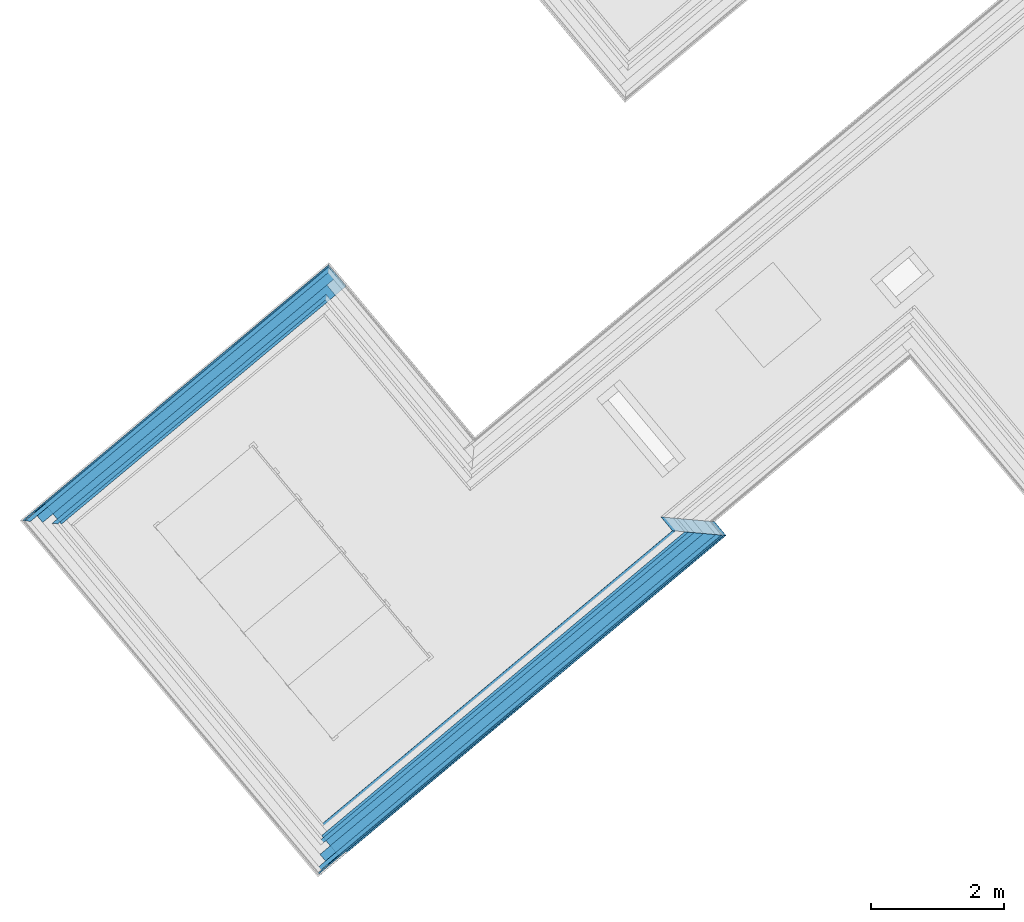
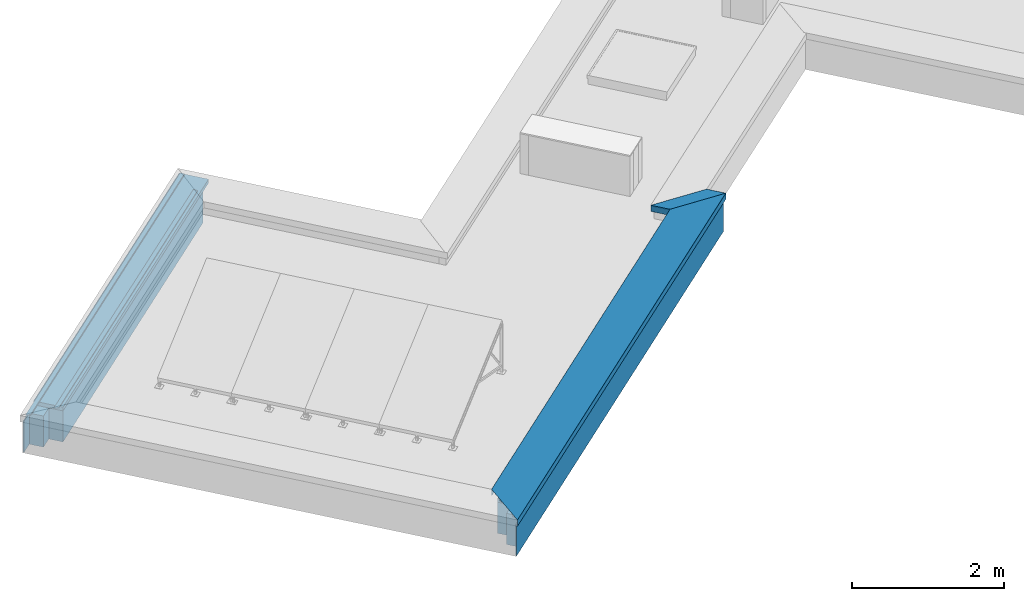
# One storey, part 2 of 13: 16 building element parts, 3 elements without a shape of their own.
"""IFC4 building model written with IfcOpenShell, lengths in metres."""

from ifc_helpers import new_model, entity, si_unit, converted_unit, derived_unit, direction, frame, origin_with_axes, place, context, subcontext, project, spatial, polygons, material, type_object, element, aggregate, save


model = new_model("IFC4")

# Units and contexts
model_context = context("Model", 3, precision=1e-05, world=origin_with_axes(), true_north=direction((0.0, 1.0)))
body_context = subcontext(model_context, "Body", "Model", "MODEL_VIEW")
ifc_project = project(units=[si_unit("LENGTHUNIT", "METRE"), si_unit("AREAUNIT", "SQUARE_METRE"), si_unit("VOLUMEUNIT", "CUBIC_METRE"), converted_unit("PLANEANGLEUNIT", "DEGREE", entity("IfcPlaneAngleMeasure", 0.0174532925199), si_unit("PLANEANGLEUNIT", "RADIAN"), dimensions=[0, 0, 0, 0, 0, 0, 0]), converted_unit("TIMEUNIT", "Year", entity("IfcTimeMeasure", 31556926.0), si_unit("TIMEUNIT", "SECOND"), dimensions=[0, 0, 1, 0, 0, 0, 0]), si_unit("MASSUNIT", "GRAM", prefix="KILO"), si_unit("THERMODYNAMICTEMPERATUREUNIT", "DEGREE_CELSIUS"), si_unit("LUMINOUSINTENSITYUNIT", "LUMEN"), si_unit("ENERGYUNIT", "JOULE", prefix="MEGA"), derived_unit("THERMALCONDUCTANCEUNIT", [(si_unit("POWERUNIT", "WATT"), 1), (si_unit("LENGTHUNIT", "METRE"), -1), (si_unit("THERMODYNAMICTEMPERATUREUNIT", "KELVIN"), -1)]), derived_unit("SPECIFICHEATCAPACITYUNIT", [(si_unit("ENERGYUNIT", "JOULE"), 1), (si_unit("MASSUNIT", "GRAM", prefix="KILO"), -1), (si_unit("THERMODYNAMICTEMPERATUREUNIT", "KELVIN"), -1)]), derived_unit("MASSDENSITYUNIT", [(si_unit("MASSUNIT", "GRAM", prefix="KILO"), 1), (si_unit("VOLUMEUNIT", "CUBIC_METRE"), -1)])], contexts=[model_context])

# Site, building, storey
site_placement = place(None, frame((-0.00153261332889, -0.00661245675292, 0.0), z_axis=(0.0, 0.0, 1.0), x_axis=(1.0, 0.0, 0.0)))
site = spatial("IfcSite", under=ifc_project, at=site_placement, Name="Gelände", CompositionType="ELEMENT")
building_placement = place(site_placement, origin_with_axes())
building = spatial("IfcBuilding", under=site, at=building_placement, Name="Gebäude", CompositionType="ELEMENT")
storey_placement = place(building_placement, frame((0.0, 0.0, 11.84), z_axis=(0.0, 0.0, 1.0), x_axis=(1.0, 0.0, 0.0)))
storey = spatial("IfcBuildingStorey", under=building, at=storey_placement, Name="DA", CompositionType="ELEMENT", Elevation=11.84)

# Wall, building element parts
wall_type = type_object("IfcWallType", Name="Individuelles Profil 574 x 610", PredefinedType="NOTDEFINED")
wall_1_placement = place(storey_placement, frame((-7.43474309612, 17.8596956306, 0.0), z_axis=(0.0, 0.0, 1.0), x_axis=(0.767365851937, 0.641209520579, 0.0)))
wall_1 = element("IfcWall", 1, at=wall_1_placement, inside=storey, type_object=wall_type, Name="Wand-004", PredefinedType="NOTDEFINED")
ifc_material_1 = material(Name="Zementputz")
building_element_part_1_placement = place(wall_1_placement, origin_with_axes())
building_element_part_1 = element("IfcBuildingElementPart", 2, at=building_element_part_1_placement, material=ifc_material_1, Name="Zementputz", PredefinedType="NOTDEFINED", context=body_context, shape_type="Tessellation", body=[
    polygons([(-0.199999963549, 0.214999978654, 0.5), (-0.199999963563, 0.199999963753, 0.5), (5.77520571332, 0.199999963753, 0.50000001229), (5.77520571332, 0.214999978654, 0.50000001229), (-0.199999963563, 0.199999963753, 0.498822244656), (-0.199999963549, 0.214999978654, 0.498822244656), (-0.199999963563, 0.199999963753, 0.491006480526), (-0.199999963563, 0.199999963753, 0.488695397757), (-0.199999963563, 0.199999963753, 0.235000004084), (-0.199999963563, 0.199999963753, 0.0), (5.77520571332, 0.199999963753, 0.0), (5.77520571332, 0.214999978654, 0.0), (-0.199999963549, 0.214999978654, 0.0), (-0.199999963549, 0.214999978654, 0.235000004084), (-0.199999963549, 0.214999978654, 0.488695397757), (-0.199999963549, 0.214999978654, 0.491006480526)], [[[1, 2, 3, 4]], [[5, 2, 1, 6]], [[2, 5, 7, 8, 9, 10, 11, 3]], [[4, 3, 11, 12]], [[6, 1, 4, 12, 13, 14, 15, 16]], [[5, 6, 16, 7]], [[7, 16, 15, 8]], [[8, 15, 14, 9]], [[9, 14, 13, 10]], [[10, 13, 12, 11]]], closed=True),
])
ifc_material_2 = material(Name="Vollholz")
building_element_part_2_placement = place(wall_1_placement, origin_with_axes())
building_element_part_2 = element("IfcBuildingElementPart", 3, at=building_element_part_2_placement, material=ifc_material_2, Name="Vollholz", PredefinedType="NOTDEFINED", context=body_context, shape_type="Tessellation", body=[
    polygons([(-0.13012497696, 0.189996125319, 0.584015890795), (-0.130124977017, 0.130124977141, 0.584015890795), (-0.18998490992, 0.189984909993, 0.586106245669), (-0.13012497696, 0.190039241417, 0.575979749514), (-0.130124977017, 0.130124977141, 0.575979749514), (5.75020187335, 0.130124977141, 0.584015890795), (5.75019090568, 0.189984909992, 0.586106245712), (-0.13012497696, 0.190050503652, 0.573880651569), (5.75020187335, 0.189996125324, 0.584015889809), (5.75024498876, 0.190039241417, 0.575979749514), (5.75025625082, 0.190050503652, 0.573880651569), (5.75028808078, 0.190082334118, 0.567947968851), (5.75033072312, 0.190124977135, 0.560000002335), (-0.13012497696, 0.190124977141, 0.560000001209), (-0.13012497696, 0.190082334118, 0.567947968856), (-0.130124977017, 0.130124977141, 0.573880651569), (-0.130124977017, 0.130124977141, 0.567947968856), (-0.130124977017, 0.130124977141, 0.560000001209), (5.75033072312, 0.130124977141, 0.560000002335), (5.75028808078, 0.130124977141, 0.567947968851), (5.75025625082, 0.130124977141, 0.573880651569), (5.75024498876, 0.130124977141, 0.575979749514)], [[[1, 2, 3]], [[2, 1, 4, 5]], [[3, 2, 6, 7]], [[8, 4, 1, 3, 7, 9, 10, 11, 12, 13, 14, 15]], [[16, 5, 4, 8]], [[17, 18, 19, 20, 21, 22, 6, 2, 5, 16]], [[7, 6, 9]], [[10, 9, 6, 22]], [[11, 10, 22, 21]], [[12, 11, 21, 20]], [[13, 12, 20, 19]], [[18, 14, 13, 19]], [[18, 17, 15, 14]], [[17, 16, 8, 15]]], closed=True),
])
ifc_material_3 = material(Name="EPS 1")
building_element_part_3_placement = place(wall_1_placement, origin_with_axes())
building_element_part_3 = element("IfcBuildingElementPart", 4, at=building_element_part_3_placement, material=ifc_material_3, Name="EPS 1", PredefinedType="NOTDEFINED", context=body_context, shape_type="Tessellation", body=[
    polygons([(5.76020570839, -2.16659046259e-09, 0.498822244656), (5.76020570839, -2.16658690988e-09, 0.5), (2.16658957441e-09, -2.16659046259e-09, 0.5), (2.16659046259e-09, -2.16659046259e-09, 0.498822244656), (2.16659046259e-09, -2.16659046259e-09, 0.491006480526), (2.16659046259e-09, -2.16659046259e-09, 0.488695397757), (2.16659046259e-09, -2.16659046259e-09, 0.235000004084), (2.16658957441e-09, -2.16659046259e-09, 0.0), (5.76020570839, -2.16659046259e-09, 0.0), (5.76020570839, -2.16659046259e-09, 0.235000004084), (5.76020570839, -2.16659046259e-09, 0.488695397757), (5.76020570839, -2.16659046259e-09, 0.491006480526), (5.76020570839, 0.19999996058, 0.5), (5.76020570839, 0.19999996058, 0.498822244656), (2.35620856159e-09, 0.19999996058, 0.5), (2.35620944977e-09, 0.19999996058, 0.498822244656), (2.35620944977e-09, 0.19999996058, 0.491006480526), (2.35620944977e-09, 0.19999996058, 0.488695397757), (2.35620944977e-09, 0.19999996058, 0.235000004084), (2.35620944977e-09, 0.19999996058, 0.0), (5.76020570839, 0.19999996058, 0.0), (5.76020570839, 0.19999996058, 0.235000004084), (5.76020570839, 0.19999996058, 0.488695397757), (5.76020570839, 0.19999996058, 0.491006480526)], [[[1, 2, 3, 4, 5, 6, 7, 8, 9, 10, 11, 12]], [[13, 2, 1, 14]], [[2, 13, 15, 3]], [[4, 3, 15, 16]], [[4, 16, 17, 5]], [[5, 17, 18, 6]], [[6, 18, 19, 7]], [[7, 19, 20, 8]], [[21, 9, 8, 20]], [[22, 10, 9, 21]], [[23, 11, 10, 22]], [[24, 12, 11, 23]], [[14, 1, 12, 24]], [[13, 14, 24, 23, 22, 21, 20, 19, 18, 17, 16, 15]]], closed=True),
])
ifc_material_4 = material(Name="Brettschichtholz")
building_element_part_4_placement = place(wall_1_placement, origin_with_axes())
building_element_part_4 = element("IfcBuildingElementPart", 5, at=building_element_part_4_placement, material=ifc_material_4, Name="Brettschichtholz", PredefinedType="NOTDEFINED", context=body_context, shape_type="Tessellation", body=[
    polygons([(5.77520571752, -0.200000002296, 0.519224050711), (5.77520572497, -0.200000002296, 0.559999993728), (0.200000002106, -0.200000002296, 0.560000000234), (0.200000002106, -0.200000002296, 0.519224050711), (0.200000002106, -0.200000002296, 0.51136132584), (0.200000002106, -0.200000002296, 0.509050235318), (0.200000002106, -0.200000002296, 0.499999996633), (5.77520571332, -0.200000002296, 0.50000001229), (5.77520571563, -0.200000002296, 0.509050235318), (5.77520571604, -0.200000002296, 0.51136132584), (5.77520572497, -0.159999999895, 0.559999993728), (5.77520571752, 0.214999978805, 0.519224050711), (5.77520572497, 0.214999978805, 0.559999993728), (5.77520572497, 0.190124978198, 0.559999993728), (5.77520572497, 0.130124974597, 0.559999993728), (5.77520572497, -0.0999999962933, 0.559999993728), (0.200000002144, -0.159999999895, 0.560000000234), (0.200000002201, -0.0999999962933, 0.560000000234), (0.200000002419, 0.130124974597, 0.560000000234), (0.200000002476, 0.190124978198, 0.560000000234), (0.200000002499, 0.214999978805, 0.560000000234), (0.200000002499, 0.214999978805, 0.519224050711), (0.200000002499, 0.214999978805, 0.51136132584), (0.200000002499, 0.214999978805, 0.509050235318), (0.200000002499, 0.214999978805, 0.499999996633), (5.77520571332, 0.214999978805, 0.50000001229), (5.77520571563, 0.214999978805, 0.509050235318), (5.77520571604, 0.214999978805, 0.51136132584)], [[[1, 2, 3, 4, 5, 6, 7, 8, 9, 10]], [[11, 2, 1, 12, 13, 14, 15, 16]], [[2, 11, 17, 3]], [[4, 3, 17, 18, 19, 20, 21, 22]], [[4, 22, 23, 5]], [[5, 23, 24, 6]], [[6, 24, 25, 7]], [[7, 25, 26, 8]], [[27, 9, 8, 26]], [[28, 10, 9, 27]], [[12, 1, 10, 28]], [[13, 12, 28, 27, 26, 25, 24, 23, 22, 21]], [[14, 13, 21, 20]], [[15, 14, 20, 19]], [[16, 15, 19, 18]], [[11, 16, 18, 17]]], closed=True),
])
ifc_material_5 = material(Name="Stahlbeton Wand Garage")
building_element_part_5_placement = place(wall_1_placement, origin_with_axes())
building_element_part_5 = element("IfcBuildingElementPart", 6, at=building_element_part_5_placement, material=ifc_material_5, Name="Stahlbeton Wand Garage", PredefinedType="NOTDEFINED", context=body_context, shape_type="Tessellation", body=[
    polygons([(5.56020574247, -0.200000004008, 0.498822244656), (5.56020574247, -0.2, 0.5), (0.19999999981, -0.2, 0.5), (0.199999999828, -0.200000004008, 0.498822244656), (0.199999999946, -0.200000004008, 0.491006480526), (0.199999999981, -0.200000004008, 0.488695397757), (0.200000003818, -0.200000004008, 0.235000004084), (5.56020574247, -0.200000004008, 0.235000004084), (5.56020574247, -0.200000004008, 0.488695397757), (5.56020574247, -0.200000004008, 0.491006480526), (5.56020574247, 0.0, 0.5), (5.56020574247, 0.0, 0.498822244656), (0.2, 0.0, 0.5), (0.200000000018, 0.0, 0.498822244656), (0.200000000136, 0.0, 0.491006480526), (0.200000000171, 0.0, 0.488695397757), (0.200000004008, 0.0, 0.235000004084), (5.56020574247, -0.2, 0.0), (0.19999999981, -0.2, 0.0), (5.56020574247, 0.0, 0.488695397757), (5.56020574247, 0.0, 0.235000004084), (5.56020574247, 0.0, 0.491006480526), (5.56020574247, 0.0, 0.0), (0.2, 0.0, 0.0)], [[[1, 2, 3, 4, 5, 6, 7, 8, 9, 10]], [[11, 2, 1, 12]], [[2, 11, 13, 3]], [[4, 3, 13, 14]], [[4, 14, 15, 5]], [[5, 15, 16, 6]], [[6, 16, 17, 7]], [[18, 8, 7, 19]], [[20, 9, 8, 21]], [[22, 10, 9, 20]], [[12, 1, 10, 22]], [[11, 12, 22, 20, 21, 23, 24, 17, 16, 15, 14, 13]], [[7, 17, 24, 19]], [[21, 8, 18, 23]], [[23, 18, 19, 24]]], closed=True),
])
building_element_part_6_placement = place(wall_1_placement, origin_with_axes())
building_element_part_6 = element("IfcBuildingElementPart", 7, at=building_element_part_6_placement, material=ifc_material_2, Name="Vollholz", PredefinedType="NOTDEFINED", context=body_context, shape_type="Tessellation", body=[
    polygons([(5.46020575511, -0.1, 0.573880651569), (5.46020575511, -0.160110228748, 0.573880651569), (5.46020575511, -0.160063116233, 0.567947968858), (5.46020575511, -0.1, 0.567947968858), (5.46020575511, -0.1, 0.575979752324), (0.160110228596, -0.160110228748, 0.573880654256), (0.160063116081, -0.160063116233, 0.567947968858), (0.159999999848, -0.16, 0.560000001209), (5.46020575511, -0.16, 0.560000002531), (5.46020575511, -0.1, 0.560000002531), (0.159999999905, -0.1, 0.560000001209), (0.160063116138, -0.1, 0.567947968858), (0.160110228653, -0.1, 0.573880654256), (0.0999999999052, -0.1, 0.575979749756)], [[[1, 2, 3, 4]], [[5, 2, 1]], [[3, 2, 6, 7, 8, 9]], [[4, 3, 9, 10]], [[5, 1, 4, 10, 11, 12, 13, 14]], [[2, 5, 14, 6]], [[6, 13, 12, 7]], [[7, 12, 11, 8]], [[10, 9, 8, 11]], [[13, 6, 14]]], closed=True),
])
aggregate(wall_1, [building_element_part_1, building_element_part_2, building_element_part_3, building_element_part_4, building_element_part_5, building_element_part_6])

wall_2_placement = place(storey_placement, frame((2.48571839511, 17.6952214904, 0.0), z_axis=(0.0, 0.0, 1.0), x_axis=(-0.766948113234, -0.641709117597, 0.0)))
wall_2 = element("IfcWall", 8, at=wall_2_placement, inside=storey, type_object=wall_type, Name="Wand-004", PredefinedType="NOTDEFINED")
building_element_part_7_placement = place(wall_2_placement, origin_with_axes())
building_element_part_7 = element("IfcBuildingElementPart", 9, at=building_element_part_7_placement, material=ifc_material_1, Name="Zementputz", PredefinedType="NOTDEFINED", context=body_context, shape_type="Tessellation", body=[
    polygons([(7.70729285, 0.199999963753, 0.5), (7.7073026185, 0.214999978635, 0.5), (-0.214695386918, 0.214999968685, 0.50000001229), (-0.199716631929, 0.199999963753, 0.50000001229), (7.7073026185, 0.214999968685, 0.498822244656), (7.70729285, 0.199999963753, 0.498822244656), (7.7073026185, 0.214999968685, 0.491006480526), (7.7073026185, 0.214999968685, 0.488695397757), (7.7073026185, 0.214999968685, 0.235000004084), (7.7073026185, 0.214999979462, 0.0), (-0.214695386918, 0.214999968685, 0.0), (-0.199716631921, 0.199999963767, 0.0), (7.70729285, 0.199999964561, 0.0), (7.70729285, 0.199999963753, 0.235000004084), (7.70729285, 0.199999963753, 0.488695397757), (7.70729285, 0.199999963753, 0.491006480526)], [[[1, 2, 3, 4]], [[5, 2, 1, 6]], [[2, 5, 7, 8, 9, 10, 11, 3]], [[12, 4, 3, 11]], [[6, 1, 4, 12, 13, 14, 15, 16]], [[5, 6, 16, 7]], [[7, 16, 15, 8]], [[8, 15, 14, 9]], [[9, 14, 13, 10]], [[10, 13, 12, 11]]], closed=True),
])
building_element_part_8_placement = place(wall_2_placement, origin_with_axes())
building_element_part_8 = element("IfcBuildingElementPart", 10, at=building_element_part_8_placement, material=ifc_material_2, Name="Vollholz", PredefinedType="NOTDEFINED", context=body_context, shape_type="Tessellation", body=[
    polygons([(7.63741133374, 0.189996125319, 0.584015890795), (7.69727127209, 0.189984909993, 0.586106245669), (7.63737234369, 0.130124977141, 0.584015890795), (7.63741136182, 0.190039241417, 0.575979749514), (7.63741136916, 0.190050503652, 0.573880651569), (7.63741138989, 0.190082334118, 0.567947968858), (7.63741141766, 0.190124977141, 0.560000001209), (-0.189855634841, 0.190124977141, 0.560000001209), (-0.18971576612, 0.189984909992, 0.586106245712), (-0.129940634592, 0.130124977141, 0.584015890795), (7.63737234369, 0.130124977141, 0.575979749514), (7.63737234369, 0.130124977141, 0.573880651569), (7.63737234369, 0.130124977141, 0.567947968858), (7.63737234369, 0.130124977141, 0.560000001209), (-0.129940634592, 0.130124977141, 0.560000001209)], [[[1, 2, 3]], [[2, 1, 4, 5, 6, 7, 8, 9]], [[3, 2, 9, 10]], [[11, 4, 1, 3]], [[12, 5, 4, 11]], [[5, 12, 13, 6]], [[13, 14, 7, 6]], [[7, 14, 15, 8]], [[15, 10, 9, 8]], [[14, 13, 12, 11, 3, 10, 15]]], closed=True),
])
building_element_part_9_placement = place(wall_2_placement, origin_with_axes())
building_element_part_9 = element("IfcBuildingElementPart", 11, at=building_element_part_9_placement, material=ifc_material_3, Name="EPS 1", PredefinedType="NOTDEFINED", context=body_context, shape_type="Tessellation", body=[
    polygons([(7.50716259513, -2.16659401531e-09, 0.5), (7.50729284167, 0.19999996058, 0.5), (-0.199716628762, 0.19999996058, 0.50000001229), (1.53557877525e-09, -2.16659223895e-09, 0.50000001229), (7.50729284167, 0.199999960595, 0.498822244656), (7.50716259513, -2.16659046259e-09, 0.498822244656), (7.50729284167, 0.199999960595, 0.491006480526), (7.50729284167, 0.199999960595, 0.488695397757), (7.50729284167, 0.199999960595, 0.235000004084), (7.50729284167, 0.199999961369, 0.0), (-0.199716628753, 0.199999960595, 0.0), (1.83745818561e-09, -2.1431141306e-09, 0.0), (7.50716259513, -1.62777169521e-09, 0.0), (7.50716259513, -2.16659046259e-09, 0.235000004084), (7.50716259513, -2.16659046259e-09, 0.488695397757), (7.50716259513, -2.16659046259e-09, 0.491006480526)], [[[1, 2, 3, 4]], [[5, 2, 1, 6]], [[2, 5, 7, 8, 9, 10, 11, 3]], [[12, 4, 3, 11]], [[6, 1, 4, 12, 13, 14, 15, 16]], [[5, 6, 16, 7]], [[7, 16, 15, 8]], [[8, 15, 14, 9]], [[9, 14, 13, 10]], [[10, 13, 12, 11]]], closed=True),
])
building_element_part_10_placement = place(wall_2_placement, origin_with_axes())
building_element_part_10 = element("IfcBuildingElementPart", 12, at=building_element_part_10_placement, material=ifc_material_4, Name="Brettschichtholz", PredefinedType="NOTDEFINED", context=body_context, shape_type="Tessellation", body=[
    polygons([(7.30703230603, -0.200000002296, 0.509050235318), (7.30730256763, 0.214999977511, 0.509050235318), (7.30730256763, 0.214999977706, 0.51136132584), (7.30703230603, -0.200000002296, 0.51136132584), (7.30703230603, -0.200000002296, 0.499999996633), (7.30730256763, 0.21499997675, 0.499999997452), (-0.214695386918, 0.214999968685, 0.50000001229), (-0.214695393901, 0.214999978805, 0.55999999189), (7.30730256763, 0.214999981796, 0.55999999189), (7.30730256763, 0.214999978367, 0.519224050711), (7.30703230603, -0.200000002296, 0.519224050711), (7.30703230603, -0.200000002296, 0.560000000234), (0.19971667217, -0.200000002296, 0.560000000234), (0.199716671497, -0.200000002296, 0.499999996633), (0.0998583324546, -0.0999999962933, 0.560000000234), (-0.129940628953, 0.130124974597, 0.560000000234), (-0.189855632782, 0.190124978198, 0.560000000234), (0.159773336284, -0.159999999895, 0.560000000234), (7.30728636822, 0.190124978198, 0.560000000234), (7.30724729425, 0.130124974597, 0.560000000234), (7.30709742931, -0.0999999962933, 0.560000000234), (7.30705835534, -0.159999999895, 0.560000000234)], [[[1, 2, 3, 4]], [[5, 6, 2, 1]], [[2, 6, 7, 8, 9, 10, 3]], [[4, 3, 10, 11]], [[5, 1, 4, 11, 12, 13, 14]], [[6, 5, 14, 7]], [[15, 16, 17, 8, 7, 14, 13, 18]], [[19, 9, 8, 17]], [[20, 21, 22, 12, 11, 10, 9, 19]], [[12, 22, 18, 13]], [[21, 20, 16, 15]], [[20, 19, 17, 16]], [[22, 21, 15, 18]]], closed=True),
])
building_element_part_11_placement = place(wall_2_placement, origin_with_axes())
building_element_part_11 = element("IfcBuildingElementPart", 13, at=building_element_part_11_placement, material=ifc_material_5, Name="Stahlbeton Wand Garage", PredefinedType="NOTDEFINED", context=body_context, shape_type="Tessellation", body=[
    polygons([(7.30703230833, -0.2, 0.5), (7.30716255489, 0.0, 0.5), (-6.27938590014e-10, 0.0, 0.50000001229), (0.19971666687, -0.2, 0.50000001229), (7.30716255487, 0.0, 0.498822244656), (7.30703230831, -0.2, 0.498822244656), (7.30716255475, 0.0, 0.491006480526), (7.30716255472, 0.0, 0.488695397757), (7.30716255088, 0.0, 0.235000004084), (7.30716255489, 5.2508930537e-10, 0.0), (-3.26064508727e-10, 0.0, 0.0), (0.199716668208, -0.200000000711, 0.23500000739), (0.199716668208, -0.200000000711, 0.0), (7.30703230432, -0.200000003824, 0.235000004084), (7.30703230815, -0.2, 0.488695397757), (7.30703230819, -0.2, 0.491006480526), (7.30703230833, -0.199999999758, 0.0)], [[[1, 2, 3, 4]], [[5, 2, 1, 6]], [[2, 5, 7, 8, 9, 10, 11, 3]], [[12, 4, 3, 11, 13]], [[6, 1, 4, 12, 14, 15, 16]], [[5, 6, 16, 7]], [[7, 16, 15, 8]], [[8, 15, 14, 9]], [[9, 14, 17, 10]], [[10, 17, 13, 11]], [[17, 14, 12, 13]]], closed=True),
])
building_element_part_12_placement = place(wall_2_placement, origin_with_axes())
building_element_part_12 = element("IfcBuildingElementPart", 14, at=building_element_part_12_placement, material=ifc_material_2, Name="Vollholz", PredefinedType="NOTDEFINED", context=body_context, shape_type="Tessellation", body=[
    polygons([(7.40709745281, -0.0999999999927, 0.575979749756), (7.34698721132, -0.1, 0.573880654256), (7.34703432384, -0.1, 0.567947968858), (7.34709744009, -0.1, 0.560000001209), (0.0998583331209, -0.1, 0.560000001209), (0.0998583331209, -0.1, 0.575979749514), (7.34694806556, -0.160110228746, 0.573880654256), (7.34699520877, -0.160063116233, 0.567947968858), (7.34705836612, -0.16, 0.560000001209), (0.15977333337, -0.16, 0.560000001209), (0.159883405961, -0.160110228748, 0.573880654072)], [[[1, 2, 3, 4, 5, 6]], [[7, 2, 1]], [[2, 7, 8, 3]], [[3, 8, 9, 4]], [[4, 9, 10, 5]], [[10, 11, 6, 5]], [[7, 1, 6, 11]], [[8, 7, 11, 10, 9]]], closed=True),
])
ifc_material_6 = material(Name="Holzwerkstoff")
building_element_part_13_placement = place(wall_2_placement, origin_with_axes())
building_element_part_13 = element("IfcBuildingElementPart", 15, at=building_element_part_13_placement, material=ifc_material_6, Name="Holzwerkstoff", PredefinedType="NOTDEFINED", context=body_context, shape_type="Tessellation", body=[
    polygons([(7.17624908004, -0.330698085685, 0.587937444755), (7.74659497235, 0.239276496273, 0.608570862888), (-0.238937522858, 0.239276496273, 0.608570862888), (0.330229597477, -0.330698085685, 0.587937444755), (7.17662073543, 0.23999703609, 0.587937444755), (7.17662369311, 0.239999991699, 0.587852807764), (-0.239659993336, 0.239999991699, 0.587852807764), (0.15988340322, -0.160110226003, 0.573880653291), (0.329532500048, -0.329999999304, 0.567947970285), (-0.189715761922, 0.189984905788, 0.586106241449), (-0.129940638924, 0.130124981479, 0.584015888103), (0.0998583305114, -0.0999999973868, 0.575979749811), (7.17694765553, -0.329999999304, 0.567947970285), (7.17674030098, -0.330207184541, 0.573880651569), (7.17666694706, -0.33028049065, 0.57597974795), (7.1763861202, -0.330561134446, 0.584015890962), (7.17631307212, -0.330634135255, 0.586106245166), (7.17665211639, 0.189985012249, 0.586106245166), (7.17685107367, -0.160110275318, 0.573880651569), (7.17668613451, 0.13012506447, 0.584015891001), (7.17681691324, -0.10000005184, 0.575979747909)], [[[1, 2, 3, 4]], [[2, 1, 5]], [[2, 5, 6, 7, 3]], [[8, 9, 4, 3, 7, 10, 11, 12]], [[13, 14, 15, 16, 17, 1, 4, 9]], [[1, 17, 18, 6, 5]], [[6, 18, 10, 7]], [[19, 13, 9, 8]], [[18, 20, 11, 10]], [[21, 12, 11, 20]], [[21, 19, 8, 12]], [[13, 19, 14]], [[19, 21, 15, 14]], [[15, 21, 20, 16]], [[16, 20, 18, 17]]], closed=True),
])
ifc_material_7 = material(Name="Stahl")
building_element_part_14_placement = place(wall_2_placement, origin_with_axes())
building_element_part_14 = element("IfcBuildingElementPart", 16, at=building_element_part_14_placement, material=ifc_material_7, Name="Stahl", PredefinedType="NOTDEFINED", context=body_context, shape_type="Tessellation", body=[
    polygons([(7.74746954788, 0.241500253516, 0.55999999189), (7.7474700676, 0.241500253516, 0.567947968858), (7.74746918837, 0.240150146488, 0.567947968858), (7.7474686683, 0.240149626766, 0.55999999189), (7.74747045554, 0.241500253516, 0.573880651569), (7.74746688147, 0.241500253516, 0.519224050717), (7.74746636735, 0.241500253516, 0.51136132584), (7.7455518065, 0.241500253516, 0.511361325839), (7.74690560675, 0.241500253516, 0.510007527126), (-0.241158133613, 0.241500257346, 0.510007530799), (-0.241158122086, 0.24150025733, 0.610006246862), (7.74882017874, 0.241500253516, 0.610006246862), (7.71005055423, 0.241500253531, 0.608602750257), (7.74747272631, 0.241500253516, 0.608602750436), (7.74747272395, 0.241500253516, 0.608570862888), (7.74747137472, 0.241500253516, 0.587937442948), (7.74747125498, 0.241500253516, 0.586106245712), (7.74747111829, 0.241500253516, 0.584015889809), (7.7474705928, 0.241500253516, 0.575979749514), (7.74746957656, 0.24015053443, 0.573880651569), (7.74555092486, 0.240146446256, 0.511361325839), (7.74746548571, 0.240146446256, 0.51136132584), (7.74746600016, 0.240146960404, 0.519224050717), (7.74746971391, 0.240150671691, 0.575979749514), (7.74747023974, 0.240151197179, 0.584015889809), (7.74747037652, 0.240151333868, 0.586106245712), (7.74747049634, 0.240151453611, 0.587937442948), (7.74747184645, 0.240152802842, 0.608570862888), (7.74747184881, 0.240152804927, 0.608602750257), (7.71004967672, 0.240152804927, 0.608602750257), (-0.239812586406, 0.240152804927, 0.608602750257), (-0.239806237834, 0.240146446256, 0.51136132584), (7.74786118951, 0.240542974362, 0.509050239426), (7.74554967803, 0.238231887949, 0.51136132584), (-0.240202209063, 0.240542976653, 0.509050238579), (0.330229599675, -0.330698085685, 0.491006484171), (0.322424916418, -0.32288233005, 0.498822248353), (0.321422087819, -0.321878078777, 0.497911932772), (0.330625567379, -0.33109461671, 0.488695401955), (0.331581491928, -0.332051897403, 0.489652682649), (0.331581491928, -0.332051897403, 0.589243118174), (-0.231045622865, 0.231373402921, 0.518219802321), (-0.231954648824, 0.232283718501, 0.519224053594), (-0.238937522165, 0.239276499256, 0.608570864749), (0.330229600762, -0.330698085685, 0.587937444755), (7.71002530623, 0.202730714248, 0.608602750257), (7.17489447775, -0.332051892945, 0.58924311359), (7.70914389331, 0.201849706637, 0.608570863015), (7.70925320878, 0.239360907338, 0.608573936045), (7.70916826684, 0.239276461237, 0.608570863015), (7.70925295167, 0.23927646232, 0.608570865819), (7.73868797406, 0.233287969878, 0.518219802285), (7.73959764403, 0.232283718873, 0.51922405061), (7.73868673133, 0.231373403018, 0.518219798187), (7.1762490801, -0.330698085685, 0.491006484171), (7.18406993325, -0.32288233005, 0.498822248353), (7.1748952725, -0.330698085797, 0.491006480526), (7.18316027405, -0.321878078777, 0.497911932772), (7.17489563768, -0.330137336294, 0.489652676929), (7.17585229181, -0.331094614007, 0.488695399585), (7.17625032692, -0.328783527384, 0.491006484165), (7.17489651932, -0.328783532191, 0.491006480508), (7.17489439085, -0.332051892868, 0.489652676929), (7.17489439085, -0.332051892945, 0.491006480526), (7.17489439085, -0.332051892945, 0.498822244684), (7.17489439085, -0.332051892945, 0.499999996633), (7.17489439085, -0.332051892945, 0.509050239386), (7.17489439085, -0.332051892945, 0.51136132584), (7.17489439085, -0.332051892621, 0.519224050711), (7.17489439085, -0.332051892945, 0.55999999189), (7.17489439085, -0.332051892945, 0.567947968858), (7.17489439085, -0.332051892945, 0.573880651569), (7.17489439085, -0.332051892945, 0.575979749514), (7.17489439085, -0.332051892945, 0.584015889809), (7.17489439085, -0.332051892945, 0.586106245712), (7.17489439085, -0.332051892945, 0.587937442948), (7.17491876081, -0.294630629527, 0.589243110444), (7.1748952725, -0.330698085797, 0.587937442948), (7.1748952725, -0.330698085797, 0.498822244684), (7.1748952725, -0.330698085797, 0.586106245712), (7.1748952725, -0.330698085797, 0.584015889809), (7.1748952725, -0.330698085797, 0.575979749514), (7.1748952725, -0.330698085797, 0.573880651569), (7.1748952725, -0.330698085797, 0.567947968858), (7.1748952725, -0.330698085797, 0.55999999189), (7.1748952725, -0.330698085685, 0.519224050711), (7.1748952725, -0.330698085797, 0.51136132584), (7.1748952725, -0.330698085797, 0.509050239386), (7.1748952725, -0.330698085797, 0.499999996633)], [[[1, 2, 3, 4]], [[5, 2, 1, 6, 7, 8, 9, 10, 11, 12, 13, 14, 15, 16, 17, 18, 19]], [[2, 5, 20, 3]], [[21, 22, 23, 4, 3, 20, 24, 25, 26, 27, 28, 29, 30, 31, 32]], [[6, 1, 4, 23]], [[7, 6, 23, 22]], [[7, 22, 21, 8]], [[33, 9, 8, 21, 34]], [[9, 33, 35, 10]], [[36, 37, 38, 39, 40, 41, 11, 10, 35, 42, 43, 32, 31, 44, 45]], [[46, 12, 11, 41, 47, 48]], [[13, 12, 46, 30]], [[29, 14, 13, 30]], [[28, 15, 14, 29]], [[15, 28, 27, 16]], [[17, 16, 27, 26]], [[18, 17, 26, 25]], [[19, 18, 25, 24]], [[5, 19, 24, 20]], [[49, 50, 44, 31, 30, 51]], [[52, 21, 32, 43, 53]], [[34, 21, 52, 54]], [[33, 34, 54, 42, 35]], [[55, 56, 37, 36, 57]], [[56, 58, 38, 37]], [[59, 60, 39, 38, 58, 61, 62]], [[60, 63, 40, 39]], [[63, 64, 65, 66, 67, 68, 69, 70, 71, 72, 73, 74, 75, 76, 47, 41, 40]], [[54, 53, 43, 42]], [[50, 77, 78, 45, 44]], [[79, 57, 36, 45, 78, 80, 81, 82, 83, 84, 85, 86, 87, 88, 89]], [[50, 48, 47, 77]], [[48, 50, 51, 30, 46]], [[50, 49, 51]], [[52, 53, 54]], [[58, 56, 55, 61]], [[55, 57, 62, 61]], [[60, 59, 63]], [[62, 57, 64, 63, 59]], [[57, 79, 65, 64]], [[79, 89, 66, 65]], [[89, 88, 67, 66]], [[88, 87, 68, 67]], [[68, 87, 86, 69]], [[85, 70, 69, 86]], [[85, 84, 71, 70]], [[84, 83, 72, 71]], [[83, 82, 73, 72]], [[82, 81, 74, 73]], [[81, 80, 75, 74]], [[80, 78, 76, 75]], [[76, 78, 77, 47]]], closed=True),
])
aggregate(wall_2, [building_element_part_7, building_element_part_8, building_element_part_9, building_element_part_10, building_element_part_11, building_element_part_12, building_element_part_13, building_element_part_14])

wall_3_placement = place(storey_placement, frame((2.48571839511, 17.6952214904, 0.0), z_axis=(0.0, 0.0, 1.0), x_axis=(-0.640621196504, 0.76785707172, 0.0)))
wall_3 = element("IfcWall", 17, at=wall_3_placement, inside=storey, type_object=wall_type, Name="Wand-004", PredefinedType="NOTDEFINED")
building_element_part_15_placement = place(wall_3_placement, origin_with_axes())
building_element_part_15 = element("IfcBuildingElementPart", 18, at=building_element_part_15_placement, material=ifc_material_7, Name="Stahl", PredefinedType="NOTDEFINED", context=body_context, shape_type="Tessellation", body=[
    polygons([(0.330625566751, 0.331094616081, 0.488695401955), (0.600063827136, 0.331094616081, 0.488695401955), (0.590847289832, 0.321878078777, 0.497911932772), (0.321422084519, 0.321878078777, 0.497911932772), (0.3315814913, 0.332051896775, 0.489652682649), (0.60102110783, 0.332051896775, 0.489652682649), (0.60102110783, 0.332051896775, 0.589243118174), (0.0274689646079, -0.241500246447, 0.610006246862), (0.027468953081, -0.241500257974, 0.510007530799), (0.0284262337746, -0.240542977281, 0.509050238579), (0.0375958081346, -0.231373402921, 0.518219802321), (0.0366854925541, -0.232283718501, 0.519224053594), (0.0288227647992, -0.240146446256, 0.51136132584), (0.028816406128, -0.240152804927, 0.608602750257), (0.0296927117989, -0.239276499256, 0.608570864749), (0.599667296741, 0.330698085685, 0.587937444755), (0.599667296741, 0.330698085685, 0.491006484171), (0.591851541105, 0.32288233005, 0.498822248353), (0.322424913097, 0.32288233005, 0.498822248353), (0.330229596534, 0.330698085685, 0.491006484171), (0.330229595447, 0.330698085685, 0.587937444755), (-0.238937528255, -0.239276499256, 0.608570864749), (-0.239812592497, -0.240152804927, 0.608602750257), (-0.239806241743, -0.240146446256, 0.51136132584), (-0.231954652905, -0.232283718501, 0.519224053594), (-0.231045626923, -0.231373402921, 0.518219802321), (-0.240202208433, -0.24054297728, 0.509050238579), (-0.241158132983, -0.241500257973, 0.510007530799), (-0.241158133, -0.241500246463, 0.610006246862), (0.3315814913, 0.332051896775, 0.589243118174)], [[[1, 2, 3, 4]], [[2, 1, 5, 6]], [[3, 2, 6, 7, 8, 9, 10, 11, 12, 13, 14, 15, 16, 17, 18]], [[3, 18, 19, 4]], [[5, 1, 4, 19, 20, 21, 22, 23, 24, 25, 26, 27, 28, 29, 30]], [[5, 30, 7, 6]], [[7, 30, 29, 8]], [[9, 8, 29, 28]], [[27, 10, 9, 28]], [[10, 27, 26, 11]], [[26, 25, 12, 11]], [[12, 25, 24, 13]], [[14, 13, 24, 23]], [[22, 15, 14, 23]], [[21, 16, 15, 22]], [[21, 20, 17, 16]], [[18, 17, 20, 19]]], closed=True),
])
building_element_part_16_placement = place(wall_3_placement, origin_with_axes())
building_element_part_16 = element("IfcBuildingElementPart", 19, at=building_element_part_16_placement, material=ifc_material_6, Name="Holzwerkstoff", PredefinedType="NOTDEFINED", context=body_context, shape_type="Tessellation", body=[
    polygons([(0.0789843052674, -0.189984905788, 0.586106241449), (0.0289692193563, -0.239999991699, 0.587852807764), (-0.23965999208, -0.239999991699, 0.587852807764), (-0.189715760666, -0.189984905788, 0.586106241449), (0.0296927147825, -0.239276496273, 0.608570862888), (0.138844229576, -0.130124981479, 0.584015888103), (0.368969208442, 0.0999999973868, 0.575979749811), (0.429079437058, 0.160110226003, 0.573880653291), (0.59896921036, 0.329999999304, 0.567947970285), (0.599667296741, 0.330698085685, 0.587937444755), (-0.238937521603, -0.239276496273, 0.608570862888), (0.330229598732, 0.330698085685, 0.587937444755), (0.329532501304, 0.329999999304, 0.567947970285), (0.159883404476, 0.160110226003, 0.573880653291), (0.0998583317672, 0.0999999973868, 0.575979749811), (-0.129940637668, -0.130124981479, 0.584015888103)], [[[1, 2, 3, 4]], [[5, 2, 1, 6, 7, 8, 9, 10]], [[2, 5, 11, 3]], [[4, 3, 11, 12, 13, 14, 15, 16]], [[6, 1, 4, 16]], [[7, 6, 16, 15]], [[8, 7, 15, 14]], [[9, 8, 14, 13]], [[10, 9, 13, 12]], [[5, 10, 12, 11]]], closed=True),
])
aggregate(wall_3, [building_element_part_15, building_element_part_16])

save(model, "model.ifc")
